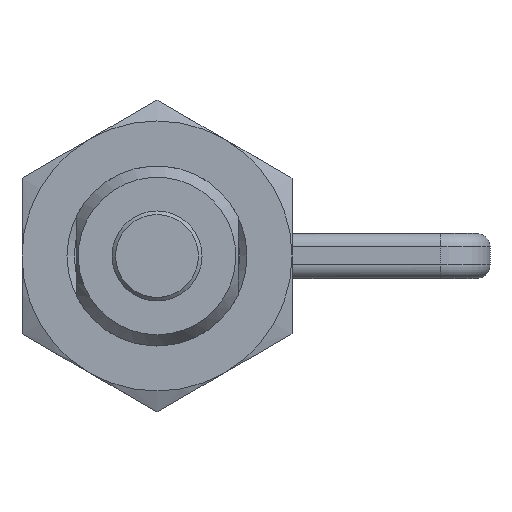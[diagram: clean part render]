
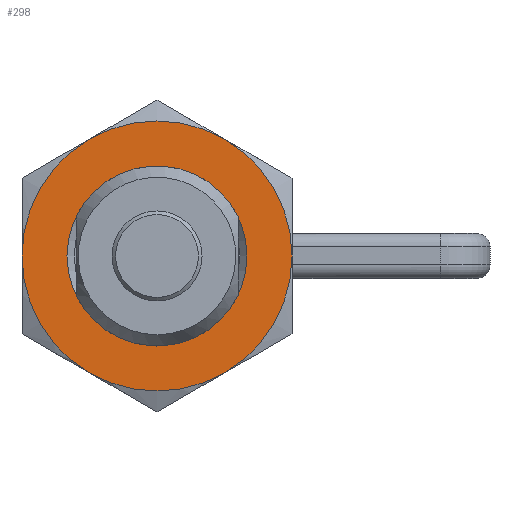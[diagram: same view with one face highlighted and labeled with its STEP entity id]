
A CAD part, front view. The second image highlights one B-rep face of the part: STEP entity #298.
In plain terms, the highlighted planar face has unit normal (0, -1, 0).
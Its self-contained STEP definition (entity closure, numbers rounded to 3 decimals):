
#298 = ADVANCED_FACE( '', ( #513, #514 ), #515, .F. );
#513 = FACE_BOUND( '', #731, .T. );
#514 = FACE_OUTER_BOUND( '', #732, .T. );
#515 = PLANE( '', #733 );
#731 = EDGE_LOOP( '', ( #1397 ) );
#732 = EDGE_LOOP( '', ( #1398, #1399, #1400, #1401, #1402, #1403 ) );
#733 = AXIS2_PLACEMENT_3D( '', #1404, #1405, #1406 );
#1397 = ORIENTED_EDGE( '', *, *, #1612, .F. );
#1398 = ORIENTED_EDGE( '', *, *, #1615, .T. );
#1399 = ORIENTED_EDGE( '', *, *, #1616, .T. );
#1400 = ORIENTED_EDGE( '', *, *, #1582, .T. );
#1401 = ORIENTED_EDGE( '', *, *, #1607, .T. );
#1402 = ORIENTED_EDGE( '', *, *, #1608, .T. );
#1403 = ORIENTED_EDGE( '', *, *, #1609, .T. );
#1404 = CARTESIAN_POINT( '', ( 15., 0., 0. ) );
#1405 = DIRECTION( '', ( 0., 1., 0. ) );
#1406 = DIRECTION( '', ( 0., 0., 1. ) );
#1582 = EDGE_CURVE( '', #1894, #1895, #1896, .T. );
#1607 = EDGE_CURVE( '', #1895, #1876, #1933, .T. );
#1608 = EDGE_CURVE( '', #1876, #1888, #1934, .T. );
#1609 = EDGE_CURVE( '', #1888, #1935, #1936, .T. );
#1612 = EDGE_CURVE( '', #1939, #1939, #1940, .T. );
#1615 = EDGE_CURVE( '', #1935, #1903, #1945, .T. );
#1616 = EDGE_CURVE( '', #1903, #1894, #1946, .T. );
#1876 = VERTEX_POINT( '', #2667 );
#1888 = VERTEX_POINT( '', #2701 );
#1894 = VERTEX_POINT( '', #2731 );
#1895 = VERTEX_POINT( '', #2732 );
#1896 = CIRCLE( '', #2733, 15. );
#1903 = VERTEX_POINT( '', #2753 );
#1933 = CIRCLE( '', #2853, 15. );
#1934 = CIRCLE( '', #2854, 15. );
#1935 = VERTEX_POINT( '', #2855 );
#1936 = CIRCLE( '', #2856, 15. );
#1939 = VERTEX_POINT( '', #2871 );
#1940 = CIRCLE( '', #2872, 10. );
#1945 = CIRCLE( '', #2877, 15. );
#1946 = CIRCLE( '', #2878, 15. );
#2667 = CARTESIAN_POINT( '', ( -15., 0., 0. ) );
#2701 = CARTESIAN_POINT( '', ( -7.5, 0., -12.99 ) );
#2731 = CARTESIAN_POINT( '', ( 7.5, 0., 12.99 ) );
#2732 = CARTESIAN_POINT( '', ( -7.5, 0., 12.99 ) );
#2733 = AXIS2_PLACEMENT_3D( '', #3155, #3156, #3157 );
#2753 = CARTESIAN_POINT( '', ( 15., 0., 0. ) );
#2853 = AXIS2_PLACEMENT_3D( '', #3182, #3183, #3184 );
#2854 = AXIS2_PLACEMENT_3D( '', #3185, #3186, #3187 );
#2855 = CARTESIAN_POINT( '', ( 7.5, 0., -12.99 ) );
#2856 = AXIS2_PLACEMENT_3D( '', #3188, #3189, #3190 );
#2871 = CARTESIAN_POINT( '', ( 0., 0., -10. ) );
#2872 = AXIS2_PLACEMENT_3D( '', #3191, #3192, #3193 );
#2877 = AXIS2_PLACEMENT_3D( '', #3200, #3201, #3202 );
#2878 = AXIS2_PLACEMENT_3D( '', #3203, #3204, #3205 );
#3155 = CARTESIAN_POINT( '', ( 0., 0., 0. ) );
#3156 = DIRECTION( '', ( 0., -1., 0. ) );
#3157 = DIRECTION( '', ( 0., 0., -1. ) );
#3182 = CARTESIAN_POINT( '', ( 0., 0., 0. ) );
#3183 = DIRECTION( '', ( 0., -1., 0. ) );
#3184 = DIRECTION( '', ( 0., 0., -1. ) );
#3185 = CARTESIAN_POINT( '', ( 0., 0., 0. ) );
#3186 = DIRECTION( '', ( 0., -1., 0. ) );
#3187 = DIRECTION( '', ( 0., 0., -1. ) );
#3188 = CARTESIAN_POINT( '', ( 0., 0., 0. ) );
#3189 = DIRECTION( '', ( 0., -1., 0. ) );
#3190 = DIRECTION( '', ( 0., 0., -1. ) );
#3191 = CARTESIAN_POINT( '', ( 0., 0., 0. ) );
#3192 = DIRECTION( '', ( 0., -1., 0. ) );
#3193 = DIRECTION( '', ( 0., 0., -1. ) );
#3200 = CARTESIAN_POINT( '', ( 0., 0., 0. ) );
#3201 = DIRECTION( '', ( 0., -1., 0. ) );
#3202 = DIRECTION( '', ( 0., 0., -1. ) );
#3203 = CARTESIAN_POINT( '', ( 0., 0., 0. ) );
#3204 = DIRECTION( '', ( 0., -1., 0. ) );
#3205 = DIRECTION( '', ( 0., 0., -1. ) );
